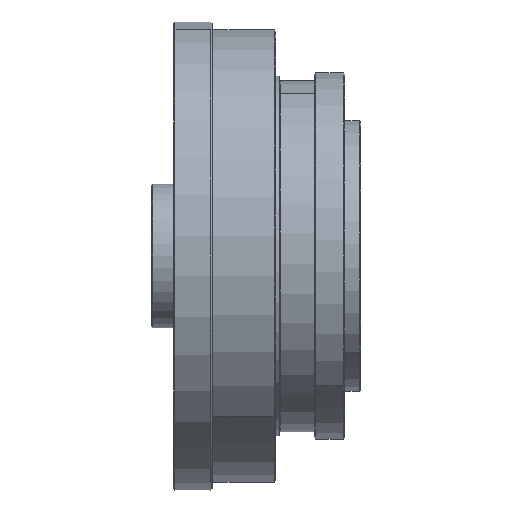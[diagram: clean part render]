
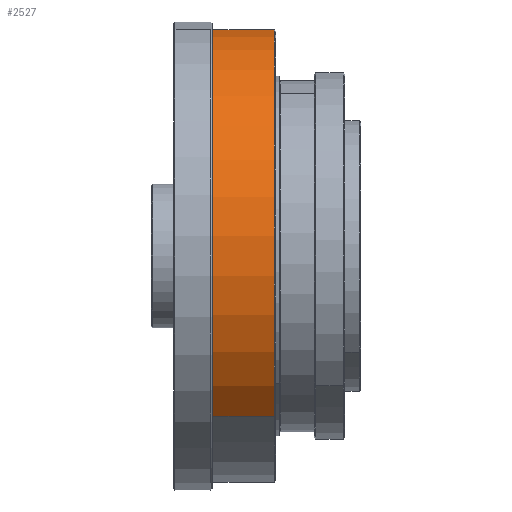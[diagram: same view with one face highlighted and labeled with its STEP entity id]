
A CAD part, front view. The second image highlights one B-rep face of the part: STEP entity #2527.
In plain terms, the highlighted cylindrical face has radius 71 mm (diameter 142 mm), a partial arc.
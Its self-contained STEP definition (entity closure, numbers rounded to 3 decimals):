
#1065 = AXIS2_PLACEMENT_3D ( 'NONE', #10202, #25220, #7657 ) ;
#1894 = VERTEX_POINT ( 'NONE', #24358 ) ;
#2272 = EDGE_CURVE ( 'NONE', #14894, #26583, #32522, .T. ) ;
#2527 = ADVANCED_FACE ( 'NONE', ( #19561 ), #18766, .T. ) ;
#4549 = ORIENTED_EDGE ( 'NONE', *, *, #2272, .T. ) ;
#4560 = CARTESIAN_POINT ( 'NONE',  ( -27., 0., 0. ) ) ;
#5597 = CARTESIAN_POINT ( 'NONE',  ( -106.214, 0., 0. ) ) ;
#5803 = DIRECTION ( 'NONE',  ( -1., 0., 0. ) ) ;
#6268 = ORIENTED_EDGE ( 'NONE', *, *, #29076, .T. ) ;
#7057 = DIRECTION ( 'NONE',  ( 0., 0.707, 0.707 ) ) ;
#7414 = EDGE_LOOP ( 'NONE', ( #23326, #29325, #6268, #4549 ) ) ;
#7657 = DIRECTION ( 'NONE',  ( 0., -0.707, -0.707 ) ) ;
#10202 = CARTESIAN_POINT ( 'NONE',  ( -49.4, 0., 0. ) ) ;
#10376 = LINE ( 'NONE', #19724, #14686 ) ;
#14165 = CARTESIAN_POINT ( 'NONE',  ( -27., -50.205, -50.205 ) ) ;
#14686 = VECTOR ( 'NONE', #22239, 1000. ) ;
#14894 = VERTEX_POINT ( 'NONE', #31783 ) ;
#17091 = EDGE_CURVE ( 'NONE', #27677, #1894, #30112, .T. ) ;
#18766 = CYLINDRICAL_SURFACE ( 'NONE', #31299, 71. ) ;
#19561 = FACE_OUTER_BOUND ( 'NONE', #7414, .T. ) ;
#19724 = CARTESIAN_POINT ( 'NONE',  ( -106.214, -50.205, -50.205 ) ) ;
#20266 = VECTOR ( 'NONE', #24326, 1000. ) ;
#20812 = DIRECTION ( 'NONE',  ( 0., 0.707, 0.707 ) ) ;
#21853 = LINE ( 'NONE', #29361, #20266 ) ;
#21907 = CARTESIAN_POINT ( 'NONE',  ( -49.4, -50.205, -50.205 ) ) ;
#22080 = DIRECTION ( 'NONE',  ( -1., 0., 0. ) ) ;
#22239 = DIRECTION ( 'NONE',  ( -1., 0., 0. ) ) ;
#23326 = ORIENTED_EDGE ( 'NONE', *, *, #31754, .F. ) ;
#24326 = DIRECTION ( 'NONE',  ( -1., 0., 0. ) ) ;
#24358 = CARTESIAN_POINT ( 'NONE',  ( -27., 50.205, 50.205 ) ) ;
#25220 = DIRECTION ( 'NONE',  ( 1., 0., 0. ) ) ;
#26583 = VERTEX_POINT ( 'NONE', #21907 ) ;
#27677 = VERTEX_POINT ( 'NONE', #14165 ) ;
#29076 = EDGE_CURVE ( 'NONE', #1894, #14894, #21853, .T. ) ;
#29325 = ORIENTED_EDGE ( 'NONE', *, *, #17091, .T. ) ;
#29361 = CARTESIAN_POINT ( 'NONE',  ( -106.214, 50.205, 50.205 ) ) ;
#30112 = CIRCLE ( 'NONE', #31606, 71. ) ;
#31299 = AXIS2_PLACEMENT_3D ( 'NONE', #5597, #5803, #20812 ) ;
#31606 = AXIS2_PLACEMENT_3D ( 'NONE', #4560, #22080, #7057 ) ;
#31754 = EDGE_CURVE ( 'NONE', #27677, #26583, #10376, .T. ) ;
#31783 = CARTESIAN_POINT ( 'NONE',  ( -49.4, 50.205, 50.205 ) ) ;
#32522 = CIRCLE ( 'NONE', #1065, 71. ) ;
